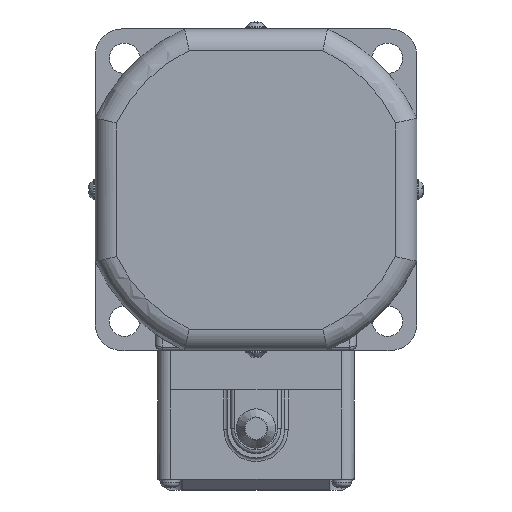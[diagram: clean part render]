
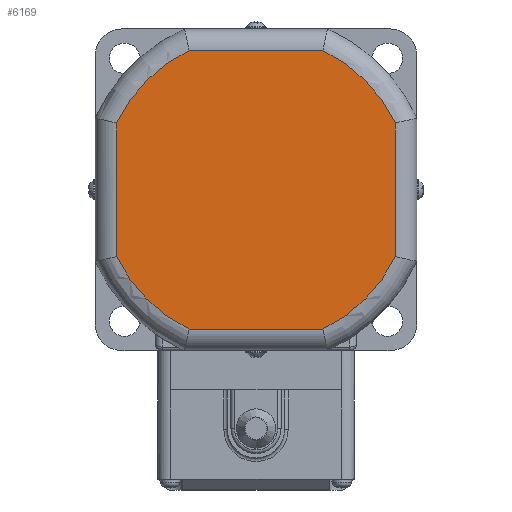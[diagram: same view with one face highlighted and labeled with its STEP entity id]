
A CAD part, left-side view. The second image highlights one B-rep face of the part: STEP entity #6169.
In plain terms, the highlighted planar face has unit normal (-1, 0, 0).
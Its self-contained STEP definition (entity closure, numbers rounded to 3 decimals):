
#508=CIRCLE('',#6730,43.25);
#509=CIRCLE('',#6731,43.25);
#510=CIRCLE('',#6732,43.25);
#511=CIRCLE('',#6733,43.25);
#988=FACE_OUTER_BOUND('',#1372,.T.);
#1372=EDGE_LOOP('',(#5009,#5010,#5011,#5012,#5013,#5014,#5015,#5016));
#1810=LINE('',#11268,#2206);
#1811=LINE('',#11272,#2207);
#1812=LINE('',#11276,#2208);
#1813=LINE('',#11280,#2209);
#2206=VECTOR('',#8077,37.393);
#2207=VECTOR('',#8080,37.393);
#2208=VECTOR('',#8083,37.393);
#2209=VECTOR('',#8086,37.393);
#2746=VERTEX_POINT('',#11266);
#2747=VERTEX_POINT('',#11267);
#2748=VERTEX_POINT('',#11269);
#2749=VERTEX_POINT('',#11271);
#2750=VERTEX_POINT('',#11273);
#2751=VERTEX_POINT('',#11275);
#2752=VERTEX_POINT('',#11277);
#2753=VERTEX_POINT('',#11279);
#3540=EDGE_CURVE('',#2746,#2747,#1810,.T.);
#3541=EDGE_CURVE('',#2748,#2746,#508,.T.);
#3542=EDGE_CURVE('',#2749,#2748,#1811,.T.);
#3543=EDGE_CURVE('',#2750,#2749,#509,.T.);
#3544=EDGE_CURVE('',#2751,#2750,#1812,.T.);
#3545=EDGE_CURVE('',#2752,#2751,#510,.T.);
#3546=EDGE_CURVE('',#2753,#2752,#1813,.T.);
#3547=EDGE_CURVE('',#2747,#2753,#511,.T.);
#5009=ORIENTED_EDGE('',*,*,#3540,.F.);
#5010=ORIENTED_EDGE('',*,*,#3541,.F.);
#5011=ORIENTED_EDGE('',*,*,#3542,.F.);
#5012=ORIENTED_EDGE('',*,*,#3543,.F.);
#5013=ORIENTED_EDGE('',*,*,#3544,.F.);
#5014=ORIENTED_EDGE('',*,*,#3545,.F.);
#5015=ORIENTED_EDGE('',*,*,#3546,.F.);
#5016=ORIENTED_EDGE('',*,*,#3547,.F.);
#5614=PLANE('',#6729);
#6169=ADVANCED_FACE('',(#988),#5614,.F.);
#6729=AXIS2_PLACEMENT_3D('',#11265,#8075,#8076);
#6730=AXIS2_PLACEMENT_3D('',#11270,#8078,#8079);
#6731=AXIS2_PLACEMENT_3D('',#11274,#8081,#8082);
#6732=AXIS2_PLACEMENT_3D('',#11278,#8084,#8085);
#6733=AXIS2_PLACEMENT_3D('',#11281,#8087,#8088);
#8075=DIRECTION('center_axis',(1.,0.,0.));
#8076=DIRECTION('ref_axis',(0.,0.,-1.));
#8077=DIRECTION('',(0.,0.,1.));
#8078=DIRECTION('center_axis',(1.,0.,0.));
#8079=DIRECTION('ref_axis',(0.,0.707,-0.707));
#8080=DIRECTION('',(0.,1.,0.));
#8081=DIRECTION('center_axis',(1.,0.,0.));
#8082=DIRECTION('ref_axis',(0.,-0.707,-0.707));
#8083=DIRECTION('',(0.,0.,-1.));
#8084=DIRECTION('center_axis',(1.,0.,0.));
#8085=DIRECTION('ref_axis',(0.,-0.707,0.707));
#8086=DIRECTION('',(0.,-1.,0.));
#8087=DIRECTION('center_axis',(1.,0.,0.));
#8088=DIRECTION('ref_axis',(0.,0.707,0.707));
#11265=CARTESIAN_POINT('Origin',(-17.8,0.,
0.));
#11266=CARTESIAN_POINT('',(-17.8,39.,-18.697));
#11267=CARTESIAN_POINT('',(-17.8,39.,18.697));
#11268=CARTESIAN_POINT('',(-17.8,39.,-18.697));
#11269=CARTESIAN_POINT('',(-17.8,18.697,-39.));
#11270=CARTESIAN_POINT('Origin',(-17.8,0.,
0.));
#11271=CARTESIAN_POINT('',(-17.8,-18.697,-39.));
#11272=CARTESIAN_POINT('',(-17.8,-18.697,-39.));
#11273=CARTESIAN_POINT('',(-17.8,-39.,-18.697));
#11274=CARTESIAN_POINT('Origin',(-17.8,0.,
0.));
#11275=CARTESIAN_POINT('',(-17.8,-39.,18.697));
#11276=CARTESIAN_POINT('',(-17.8,-39.,18.697));
#11277=CARTESIAN_POINT('',(-17.8,-18.697,39.));
#11278=CARTESIAN_POINT('Origin',(-17.8,0.,
0.));
#11279=CARTESIAN_POINT('',(-17.8,18.697,39.));
#11280=CARTESIAN_POINT('',(-17.8,18.697,39.));
#11281=CARTESIAN_POINT('Origin',(-17.8,0.,
0.));
